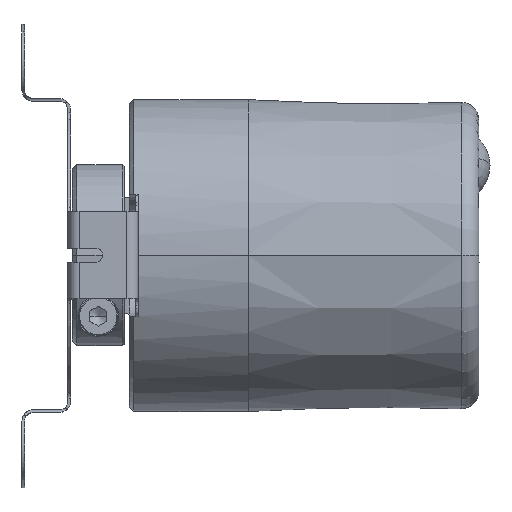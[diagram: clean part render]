
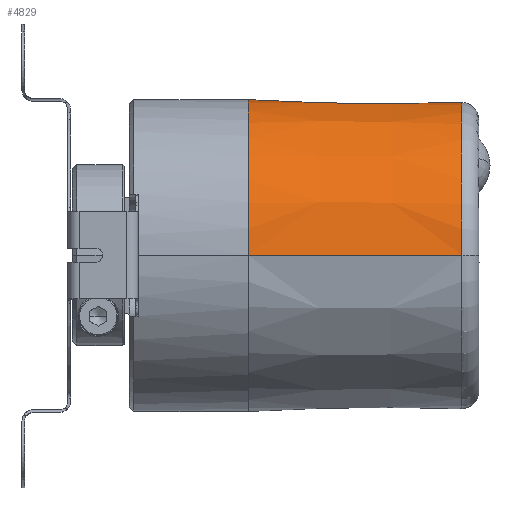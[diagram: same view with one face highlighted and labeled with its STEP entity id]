
A CAD part, top view. The second image highlights one B-rep face of the part: STEP entity #4829.
In plain terms, the highlighted conical face has half-angle 0.75 degrees and reference radius 18 mm.
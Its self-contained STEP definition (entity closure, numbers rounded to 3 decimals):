
#4488 = VERTEX_POINT ( 'NONE', #23387 ) ;
#4755 = EDGE_CURVE ( 'NONE', #4756, #4757, #24258, .T. ) ;
#4756 = VERTEX_POINT ( 'NONE', #24260 ) ;
#4757 = VERTEX_POINT ( 'NONE', #24259 ) ;
#4813 = VERTEX_POINT ( 'NONE', #24470 ) ;
#4814 = ORIENTED_EDGE ( 'NONE', *, *, #4815, .T. ) ;
#4815 = EDGE_CURVE ( 'NONE', #4813, #4816, #24468, .T. ) ;
#4816 = VERTEX_POINT ( 'NONE', #24463 ) ;
#4817 = ORIENTED_EDGE ( 'NONE', *, *, #4818, .F. ) ;
#4818 = EDGE_CURVE ( 'NONE', #4488, #4816, #24462, .T. ) ;
#4819 = ORIENTED_EDGE ( 'NONE', *, *, #4820, .T. ) ;
#4820 = EDGE_CURVE ( 'NONE', #4488, #4821, #24458, .T. ) ;
#4821 = VERTEX_POINT ( 'NONE', #24453 ) ;
#4822 = ORIENTED_EDGE ( 'NONE', *, *, #4823, .T. ) ;
#4823 = EDGE_CURVE ( 'NONE', #4821, #4885, #24451, .T. ) ;
#4829 = ADVANCED_FACE ( 'NONE', ( #24477 ), #24508, .T. ) ;
#4830 = EDGE_LOOP ( 'NONE', ( #4831, #4835, #4837, #4899, #4902, #4814, #4817, #4819, #4822, #4886, #4889 ) ) ;
#4831 = ORIENTED_EDGE ( 'NONE', *, *, #4832, .F. ) ;
#4832 = EDGE_CURVE ( 'NONE', #4833, #4834, #24509, .T. ) ;
#4833 = VERTEX_POINT ( 'NONE', #24500 ) ;
#4834 = VERTEX_POINT ( 'NONE', #24499 ) ;
#4835 = ORIENTED_EDGE ( 'NONE', *, *, #4836, .T. ) ;
#4836 = EDGE_CURVE ( 'NONE', #4833, #4756, #24558, .T. ) ;
#4837 = ORIENTED_EDGE ( 'NONE', *, *, #4755, .T. ) ;
#4885 = VERTEX_POINT ( 'NONE', #24615 ) ;
#4886 = ORIENTED_EDGE ( 'NONE', *, *, #4887, .F. ) ;
#4887 = EDGE_CURVE ( 'NONE', #4888, #4885, #24679, .T. ) ;
#4888 = VERTEX_POINT ( 'NONE', #24614 ) ;
#4889 = ORIENTED_EDGE ( 'NONE', *, *, #4890, .T. ) ;
#4890 = EDGE_CURVE ( 'NONE', #4888, #4834, #24672, .T. ) ;
#4899 = ORIENTED_EDGE ( 'NONE', *, *, #4900, .T. ) ;
#4900 = EDGE_CURVE ( 'NONE', #4757, #4901, #24682, .T. ) ;
#4901 = VERTEX_POINT ( 'NONE', #24683 ) ;
#4902 = ORIENTED_EDGE ( 'NONE', *, *, #4903, .T. ) ;
#4903 = EDGE_CURVE ( 'NONE', #4901, #4813, #24716, .T. ) ;
#23387 = CARTESIAN_POINT ( 'NONE',  ( 38.326, 0., 17.678 ) ) ;
#24247 = CARTESIAN_POINT ( 'NONE',  ( 14.892, 1.046, -17.954 ) ) ;
#24248 = CARTESIAN_POINT ( 'NONE',  ( 15.022, 1.035, -17.953 ) ) ;
#24249 = CARTESIAN_POINT ( 'NONE',  ( 15.149, 0.999, -17.953 ) ) ;
#24250 = CARTESIAN_POINT ( 'NONE',  ( 15.381, 0.884, -17.956 ) ) ;
#24251 = CARTESIAN_POINT ( 'NONE',  ( 15.487, 0.804, -17.959 ) ) ;
#24252 = CARTESIAN_POINT ( 'NONE',  ( 15.662, 0.614, -17.964 ) ) ;
#24253 = CARTESIAN_POINT ( 'NONE',  ( 15.732, 0.501, -17.967 ) ) ;
#24254 = CARTESIAN_POINT ( 'NONE',  ( 15.825, 0.26, -17.971 ) ) ;
#24255 = CARTESIAN_POINT ( 'NONE',  ( 15.85, 0.129, -17.972 ) ) ;
#24256 = CARTESIAN_POINT ( 'NONE',  ( 15.85, 0., -17.972 ) ) ;
#24258 = B_SPLINE_CURVE_WITH_KNOTS ( 'NONE', 3,
 ( #24256, #24255, #24254, #24253, #24252, #24251, #24250, #24249, #24248, #24247 ),
 .UNSPECIFIED., .F., .F.,
 ( 4, 2, 2, 2, 4 ),
 ( 0.002, 0.002, 0.002, 0.003, 0.003 ),
 .UNSPECIFIED. ) ;
#24259 = CARTESIAN_POINT ( 'NONE',  ( 14.892, 1.046, -17.954 ) ) ;
#24260 = CARTESIAN_POINT ( 'NONE',  ( 15.85, 0., -17.972 ) ) ;
#24451 = B_SPLINE_CURVE_WITH_KNOTS ( 'NONE', 3,
 ( #24498, #24497, #24496, #24495 ),
 .UNSPECIFIED., .F., .F.,
 ( 4, 4 ),
 ( 0.004, 0.004 ),
 .UNSPECIFIED. ) ;
#24453 = CARTESIAN_POINT ( 'NONE',  ( 38.326, 9.486, -14.917 ) ) ;
#24454 = DIRECTION ( 'NONE',  ( 0., 0., -1. ) ) ;
#24455 = DIRECTION ( 'NONE',  ( -1., 0., 0. ) ) ;
#24456 = CARTESIAN_POINT ( 'NONE',  ( 38.326, 0., 0. ) ) ;
#24457 = AXIS2_PLACEMENT_3D ( 'NONE', #24456, #24455, #24454 ) ;
#24458 = CIRCLE ( 'NONE', #24457, 17.678 ) ;
#24459 = DIRECTION ( 'NONE',  ( -1., 0., 0.013 ) ) ;
#24460 = VECTOR ( 'NONE', #24459, 1000. ) ;
#24461 = CARTESIAN_POINT ( 'NONE',  ( 13.7, 0., 18. ) ) ;
#24462 = LINE ( 'NONE', #24461, #24460 ) ;
#24463 = CARTESIAN_POINT ( 'NONE',  ( 13.7, 0., 18. ) ) ;
#24464 = DIRECTION ( 'NONE',  ( 0., 0., -1. ) ) ;
#24465 = DIRECTION ( 'NONE',  ( 1., 0., 0. ) ) ;
#24466 = CARTESIAN_POINT ( 'NONE',  ( 13.7, 0., 0. ) ) ;
#24467 = AXIS2_PLACEMENT_3D ( 'NONE', #24466, #24465, #24464 ) ;
#24468 = CIRCLE ( 'NONE', #24467, 18. ) ;
#24470 = CARTESIAN_POINT ( 'NONE',  ( 13.7, 1.65, -17.924 ) ) ;
#24477 = FACE_OUTER_BOUND ( 'NONE', #4830, .T. ) ;
#24495 = CARTESIAN_POINT ( 'NONE',  ( 38.3, 9.486, -14.917 ) ) ;
#24496 = CARTESIAN_POINT ( 'NONE',  ( 38.309, 9.486, -14.917 ) ) ;
#24497 = CARTESIAN_POINT ( 'NONE',  ( 38.317, 9.486, -14.917 ) ) ;
#24498 = CARTESIAN_POINT ( 'NONE',  ( 38.326, 9.486, -14.917 ) ) ;
#24499 = CARTESIAN_POINT ( 'NONE',  ( 24.3, 6.771, -16.528 ) ) ;
#24500 = CARTESIAN_POINT ( 'NONE',  ( 24.3, 0., -17.861 ) ) ;
#24501 = DIRECTION ( 'NONE',  ( 0., 0., 1. ) ) ;
#24502 = DIRECTION ( 'NONE',  ( 1., 0., 0. ) ) ;
#24503 = CARTESIAN_POINT ( 'NONE',  ( 24.3, 0., 0. ) ) ;
#24504 = AXIS2_PLACEMENT_3D ( 'NONE', #24503, #24502, #24501 ) ;
#24505 = DIRECTION ( 'NONE',  ( 0., 0., 1. ) ) ;
#24506 = DIRECTION ( 'NONE',  ( -1., 0., 0. ) ) ;
#24507 = AXIS2_PLACEMENT_3D ( 'NONE', #24511, #24506, #24505 ) ;
#24508 = CONICAL_SURFACE ( 'NONE', #24507, 18., 0.013 ) ;
#24509 = CIRCLE ( 'NONE', #24504, 17.861 ) ;
#24511 = CARTESIAN_POINT ( 'NONE',  ( 13.7, 0., 0. ) ) ;
#24555 = DIRECTION ( 'NONE',  ( -1., 0., -0.013 ) ) ;
#24556 = VECTOR ( 'NONE', #24555, 1000. ) ;
#24557 = CARTESIAN_POINT ( 'NONE',  ( 13.7, 0., -18. ) ) ;
#24558 = LINE ( 'NONE', #24557, #24556 ) ;
#24614 = CARTESIAN_POINT ( 'NONE',  ( 26.3, 9.398, -15.158 ) ) ;
#24615 = CARTESIAN_POINT ( 'NONE',  ( 38.3, 9.486, -14.917 ) ) ;
#24652 = CARTESIAN_POINT ( 'NONE',  ( 24.3, 6.771, -16.528 ) ) ;
#24653 = CARTESIAN_POINT ( 'NONE',  ( 24.3, 7.074, -16.404 ) ) ;
#24654 = CARTESIAN_POINT ( 'NONE',  ( 24.343, 7.37, -16.272 ) ) ;
#24655 = CARTESIAN_POINT ( 'NONE',  ( 24.507, 7.94, -16. ) ) ;
#24656 = CARTESIAN_POINT ( 'NONE',  ( 24.625, 8.207, -15.862 ) ) ;
#24657 = CARTESIAN_POINT ( 'NONE',  ( 24.948, 8.703, -15.59 ) ) ;
#24658 = CARTESIAN_POINT ( 'NONE',  ( 25.15, 8.928, -15.458 ) ) ;
#24659 = CARTESIAN_POINT ( 'NONE',  ( 25.533, 9.191, -15.296 ) ) ;
#24660 = CARTESIAN_POINT ( 'NONE',  ( 25.672, 9.264, -15.25 ) ) ;
#24661 = CARTESIAN_POINT ( 'NONE',  ( 25.977, 9.368, -15.181 ) ) ;
#24662 = CARTESIAN_POINT ( 'NONE',  ( 26.135, 9.397, -15.161 ) ) ;
#24663 = CARTESIAN_POINT ( 'NONE',  ( 26.3, 9.398, -15.158 ) ) ;
#24672 = B_SPLINE_CURVE_WITH_KNOTS ( 'NONE', 3,
 ( #24663, #24662, #24661, #24660, #24659, #24658, #24657, #24656, #24655, #24654, #24653, #24652 ),
 .UNSPECIFIED., .F., .F.,
 ( 4, 2, 2, 2, 2, 4 ),
 ( 0., 0., 0.001, 0.002, 0.003, 0.004 ),
 .UNSPECIFIED. ) ;
#24675 = CARTESIAN_POINT ( 'NONE',  ( 38.3, 9.486, -14.917 ) ) ;
#24676 = CARTESIAN_POINT ( 'NONE',  ( 34.3, 9.457, -14.998 ) ) ;
#24677 = CARTESIAN_POINT ( 'NONE',  ( 30.3, 9.427, -15.078 ) ) ;
#24678 = CARTESIAN_POINT ( 'NONE',  ( 26.3, 9.398, -15.158 ) ) ;
#24679 = B_SPLINE_CURVE_WITH_KNOTS ( 'NONE', 3,
 ( #24678, #24677, #24676, #24675 ),
 .UNSPECIFIED., .F., .F.,
 ( 4, 4 ),
 ( 0.002, 0.014 ),
 .UNSPECIFIED. ) ;
#24680 = CARTESIAN_POINT ( 'NONE',  ( 14.677, 1.065, -17.956 ) ) ;
#24681 = CARTESIAN_POINT ( 'NONE',  ( 14.892, 1.046, -17.954 ) ) ;
#24682 =( BOUNDED_CURVE ( )  B_SPLINE_CURVE ( 3, ( #24681, #24680, #24718, #24717 ),
 .UNSPECIFIED., .F., .T. ) 
 B_SPLINE_CURVE_WITH_KNOTS ( ( 4, 4 ),
 ( 4.62, 4.623 ),
 .UNSPECIFIED. ) 
 CURVE ( )  GEOMETRIC_REPRESENTATION_ITEM ( )  RATIONAL_B_SPLINE_CURVE ( ( 1., 1., 1., 1. ) ) 
 REPRESENTATION_ITEM ( '' )  );
#24683 = CARTESIAN_POINT ( 'NONE',  ( 14.248, 1.102, -17.959 ) ) ;
#24712 = CARTESIAN_POINT ( 'NONE',  ( 13.7, 1.65, -17.924 ) ) ;
#24713 = CARTESIAN_POINT ( 'NONE',  ( 13.882, 1.468, -17.939 ) ) ;
#24714 = CARTESIAN_POINT ( 'NONE',  ( 14.065, 1.285, -17.95 ) ) ;
#24715 = CARTESIAN_POINT ( 'NONE',  ( 14.248, 1.102, -17.959 ) ) ;
#24716 =( BOUNDED_CURVE ( )  B_SPLINE_CURVE ( 3, ( #24715, #24714, #24713, #24712 ),
 .UNSPECIFIED., .F., .T. ) 
 B_SPLINE_CURVE_WITH_KNOTS ( ( 4, 4 ),
 ( 4.761, 4.791 ),
 .UNSPECIFIED. ) 
 CURVE ( )  GEOMETRIC_REPRESENTATION_ITEM ( )  RATIONAL_B_SPLINE_CURVE ( ( 1., 1., 1., 1. ) ) 
 REPRESENTATION_ITEM ( '' )  );
#24717 = CARTESIAN_POINT ( 'NONE',  ( 14.248, 1.102, -17.959 ) ) ;
#24718 = CARTESIAN_POINT ( 'NONE',  ( 14.462, 1.084, -17.957 ) ) ;
